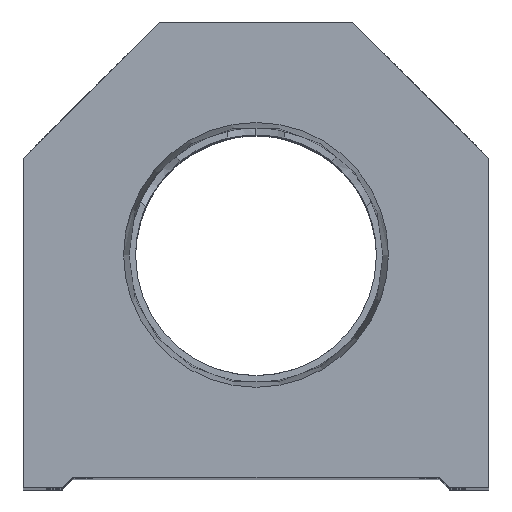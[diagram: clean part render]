
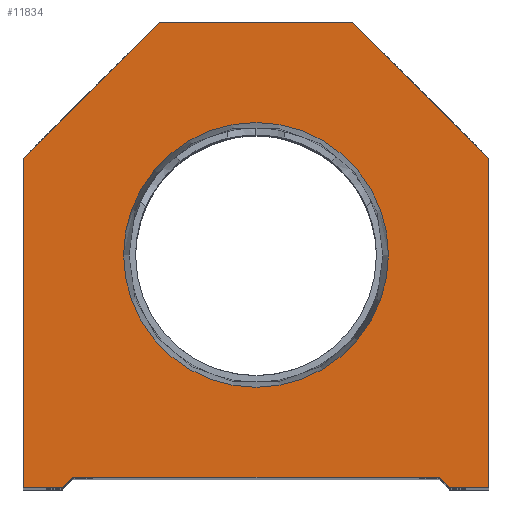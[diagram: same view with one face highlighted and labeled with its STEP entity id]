
A CAD part, top view. The second image highlights one B-rep face of the part: STEP entity #11834.
In plain terms, the highlighted planar face has unit normal (0, 0, 1).
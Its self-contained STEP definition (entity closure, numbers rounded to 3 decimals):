
#68 = CARTESIAN_POINT ( 'NONE',  ( -22.25, 0., 0. ) ) ;
#232 = CARTESIAN_POINT ( 'NONE',  ( 0., 22.25, 0. ) ) ;
#234 = DIRECTION ( 'NONE',  ( -0.707, 0.707, 0. ) ) ;
#338 = ORIENTED_EDGE ( 'NONE', *, *, #3836, .T. ) ;
#1012 = EDGE_CURVE ( 'NONE', #16453, #14897, #8549, .T. ) ;
#1155 = DIRECTION ( 'NONE',  ( 0.707, 0.707, 0. ) ) ;
#1162 = DIRECTION ( 'NONE',  ( 0.707, -0.707, 0. ) ) ;
#1362 = EDGE_LOOP ( 'NONE', ( #14527, #14265 ) ) ;
#1380 = CARTESIAN_POINT ( 'NONE',  ( -22.25, 31.5, 0. ) ) ;
#1867 = CARTESIAN_POINT ( 'NONE',  ( 9.25, 44.5, 0. ) ) ;
#1977 = CIRCLE ( 'NONE', #8967, 12.647 ) ;
#2030 = VERTEX_POINT ( 'NONE', #10050 ) ;
#2179 = CARTESIAN_POINT ( 'NONE',  ( -22.25, 0., 0. ) ) ;
#2248 = CARTESIAN_POINT ( 'NONE',  ( -9.25, 9.25, 0. ) ) ;
#2328 = CARTESIAN_POINT ( 'NONE',  ( 9.25, 44.5, 0. ) ) ;
#2709 = CARTESIAN_POINT ( 'NONE',  ( 18.5, 0., 0. ) ) ;
#2712 = VERTEX_POINT ( 'NONE', #68 ) ;
#2770 = LINE ( 'NONE', #11575, #3818 ) ;
#2855 = EDGE_CURVE ( 'NONE', #13553, #15332, #13812, .T. ) ;
#3043 = PLANE ( 'NONE',  #12685 ) ;
#3322 = ORIENTED_EDGE ( 'NONE', *, *, #12198, .T. ) ;
#3800 = CARTESIAN_POINT ( 'NONE',  ( -17.5, 0., 0. ) ) ;
#3818 = VECTOR ( 'NONE', #1162, 1000. ) ;
#3836 = EDGE_CURVE ( 'NONE', #2712, #4493, #15264, .T. ) ;
#3998 = CARTESIAN_POINT ( 'NONE',  ( -17.5, 1., 0. ) ) ;
#4049 = EDGE_CURVE ( 'NONE', #4493, #4790, #14978, .T. ) ;
#4283 = EDGE_CURVE ( 'NONE', #14413, #16453, #9152, .T. ) ;
#4493 = VERTEX_POINT ( 'NONE', #10316 ) ;
#4549 = LINE ( 'NONE', #2179, #15644 ) ;
#4790 = VERTEX_POINT ( 'NONE', #3998 ) ;
#5021 = DIRECTION ( 'NONE',  ( 0., 0., 1. ) ) ;
#5285 = VECTOR ( 'NONE', #11307, 1000. ) ;
#5659 = ORIENTED_EDGE ( 'NONE', *, *, #2855, .T. ) ;
#5725 = CARTESIAN_POINT ( 'NONE',  ( 0., 0., 0. ) ) ;
#5789 = VECTOR ( 'NONE', #10372, 1000. ) ;
#6177 = VECTOR ( 'NONE', #8950, 1000. ) ;
#6341 = LINE ( 'NONE', #1380, #6177 ) ;
#6595 = LINE ( 'NONE', #14210, #5789 ) ;
#6720 = CARTESIAN_POINT ( 'NONE',  ( 22.25, 31.5, 0. ) ) ;
#6725 = EDGE_CURVE ( 'NONE', #7473, #10665, #14430, .T. ) ;
#6790 = DIRECTION ( 'NONE',  ( 0., 0., 1. ) ) ;
#6792 = LINE ( 'NONE', #9314, #12309 ) ;
#6883 = ORIENTED_EDGE ( 'NONE', *, *, #4049, .T. ) ;
#7173 = VECTOR ( 'NONE', #1155, 1000. ) ;
#7473 = VERTEX_POINT ( 'NONE', #13004 ) ;
#8186 = VECTOR ( 'NONE', #12631, 1000. ) ;
#8261 = VECTOR ( 'NONE', #12817, 1000. ) ;
#8518 = VECTOR ( 'NONE', #8929, 1000. ) ;
#8549 = LINE ( 'NONE', #15123, #8186 ) ;
#8758 = CARTESIAN_POINT ( 'NONE',  ( -9.25, 44.5, 0. ) ) ;
#8872 = ORIENTED_EDGE ( 'NONE', *, *, #16219, .T. ) ;
#8929 = DIRECTION ( 'NONE',  ( 1., 0., 0. ) ) ;
#8950 = DIRECTION ( 'NONE',  ( -0.707, -0.707, 0. ) ) ;
#8967 = AXIS2_PLACEMENT_3D ( 'NONE', #11471, #5021, #10052 ) ;
#9066 = CARTESIAN_POINT ( 'NONE',  ( 17.5, 0., 0. ) ) ;
#9152 = LINE ( 'NONE', #9066, #8261 ) ;
#9314 = CARTESIAN_POINT ( 'NONE',  ( 22.25, 31.5, 0. ) ) ;
#9424 = FACE_BOUND ( 'NONE', #1362, .T. ) ;
#9529 = ORIENTED_EDGE ( 'NONE', *, *, #12765, .T. ) ;
#9789 = EDGE_CURVE ( 'NONE', #14897, #13553, #6792, .T. ) ;
#10050 = CARTESIAN_POINT ( 'NONE',  ( 17.5, 1., 0. ) ) ;
#10052 = DIRECTION ( 'NONE',  ( 1., 0., 0. ) ) ;
#10316 = CARTESIAN_POINT ( 'NONE',  ( -18.5, 0., 0. ) ) ;
#10372 = DIRECTION ( 'NONE',  ( 1., 0., 0. ) ) ;
#10665 = VERTEX_POINT ( 'NONE', #13624 ) ;
#10844 = DIRECTION ( 'NONE',  ( 0., 0., 1. ) ) ;
#11307 = DIRECTION ( 'NONE',  ( -1., 0., 0. ) ) ;
#11464 = EDGE_CURVE ( 'NONE', #4790, #2030, #6595, .T. ) ;
#11471 = CARTESIAN_POINT ( 'NONE',  ( 0., 22.25, 0. ) ) ;
#11575 = CARTESIAN_POINT ( 'NONE',  ( 9.25, 9.25, 0. ) ) ;
#11834 = ADVANCED_FACE ( 'NONE', ( #9424, #12089 ), #3043, .T. ) ;
#11904 = EDGE_CURVE ( 'NONE', #10665, #7473, #1977, .T. ) ;
#11973 = ORIENTED_EDGE ( 'NONE', *, *, #4283, .T. ) ;
#12089 = FACE_OUTER_BOUND ( 'NONE', #16552, .T. ) ;
#12198 = EDGE_CURVE ( 'NONE', #15332, #14783, #6341, .T. ) ;
#12309 = VECTOR ( 'NONE', #234, 1000. ) ;
#12424 = ORIENTED_EDGE ( 'NONE', *, *, #1012, .T. ) ;
#12631 = DIRECTION ( 'NONE',  ( 0., 1., 0. ) ) ;
#12685 = AXIS2_PLACEMENT_3D ( 'NONE', #5725, #10844, #15917 ) ;
#12765 = EDGE_CURVE ( 'NONE', #2030, #14413, #2770, .T. ) ;
#12817 = DIRECTION ( 'NONE',  ( 1., 0., 0. ) ) ;
#12974 = ORIENTED_EDGE ( 'NONE', *, *, #11464, .T. ) ;
#13004 = CARTESIAN_POINT ( 'NONE',  ( -12.647, 22.25, 0. ) ) ;
#13553 = VERTEX_POINT ( 'NONE', #1867 ) ;
#13624 = CARTESIAN_POINT ( 'NONE',  ( 12.647, 22.25, 0. ) ) ;
#13812 = LINE ( 'NONE', #2328, #5285 ) ;
#13899 = AXIS2_PLACEMENT_3D ( 'NONE', #232, #6790, #14563 ) ;
#14210 = CARTESIAN_POINT ( 'NONE',  ( -17.5, 1., 0. ) ) ;
#14265 = ORIENTED_EDGE ( 'NONE', *, *, #6725, .F. ) ;
#14413 = VERTEX_POINT ( 'NONE', #2709 ) ;
#14430 = CIRCLE ( 'NONE', #13899, 12.647 ) ;
#14527 = ORIENTED_EDGE ( 'NONE', *, *, #11904, .F. ) ;
#14563 = DIRECTION ( 'NONE',  ( 1., 0., 0. ) ) ;
#14783 = VERTEX_POINT ( 'NONE', #16077 ) ;
#14897 = VERTEX_POINT ( 'NONE', #6720 ) ;
#14978 = LINE ( 'NONE', #2248, #7173 ) ;
#15123 = CARTESIAN_POINT ( 'NONE',  ( 22.25, 0., 0. ) ) ;
#15264 = LINE ( 'NONE', #3800, #8518 ) ;
#15332 = VERTEX_POINT ( 'NONE', #8758 ) ;
#15644 = VECTOR ( 'NONE', #16075, 1000. ) ;
#15917 = DIRECTION ( 'NONE',  ( 1., 0., 0. ) ) ;
#16075 = DIRECTION ( 'NONE',  ( 0., -1., 0. ) ) ;
#16077 = CARTESIAN_POINT ( 'NONE',  ( -22.25, 31.5, 0. ) ) ;
#16219 = EDGE_CURVE ( 'NONE', #14783, #2712, #4549, .T. ) ;
#16301 = CARTESIAN_POINT ( 'NONE',  ( 22.25, 0., 0. ) ) ;
#16349 = ORIENTED_EDGE ( 'NONE', *, *, #9789, .T. ) ;
#16453 = VERTEX_POINT ( 'NONE', #16301 ) ;
#16552 = EDGE_LOOP ( 'NONE', ( #338, #6883, #12974, #9529, #11973, #12424, #16349, #5659, #3322, #8872 ) ) ;
